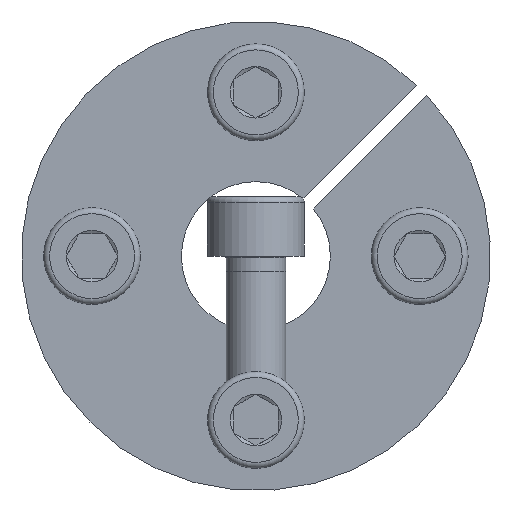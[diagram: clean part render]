
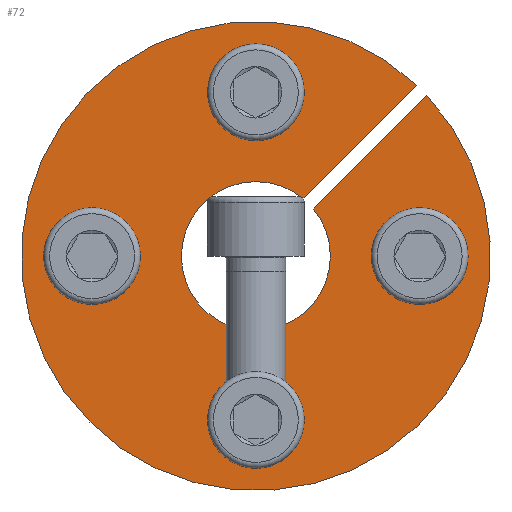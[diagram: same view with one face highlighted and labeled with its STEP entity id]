
A CAD part, front view. The second image highlights one B-rep face of the part: STEP entity #72.
In plain terms, the highlighted planar face has unit normal (0, -1, 0).
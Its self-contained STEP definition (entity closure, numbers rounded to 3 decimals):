
#72 = ADVANCED_FACE( '', ( #149, #150, #151, #152, #153 ), #154, .F. );
#149 = FACE_OUTER_BOUND( '', #255, .T. );
#150 = FACE_BOUND( '', #256, .T. );
#151 = FACE_BOUND( '', #257, .T. );
#152 = FACE_BOUND( '', #258, .T. );
#153 = FACE_BOUND( '', #259, .T. );
#154 = PLANE( '', #260 );
#255 = EDGE_LOOP( '', ( #402, #403, #404, #405 ) );
#256 = EDGE_LOOP( '', ( #406 ) );
#257 = EDGE_LOOP( '', ( #407 ) );
#258 = EDGE_LOOP( '', ( #408 ) );
#259 = EDGE_LOOP( '', ( #409 ) );
#260 = AXIS2_PLACEMENT_3D( '', #410, #411, #412 );
#402 = ORIENTED_EDGE( '', *, *, #617, .T. );
#403 = ORIENTED_EDGE( '', *, *, #618, .T. );
#404 = ORIENTED_EDGE( '', *, *, #619, .T. );
#405 = ORIENTED_EDGE( '', *, *, #620, .F. );
#406 = ORIENTED_EDGE( '', *, *, #621, .F. );
#407 = ORIENTED_EDGE( '', *, *, #622, .F. );
#408 = ORIENTED_EDGE( '', *, *, #623, .F. );
#409 = ORIENTED_EDGE( '', *, *, #624, .F. );
#410 = CARTESIAN_POINT( '', ( 0., 0., 31.5 ) );
#411 = DIRECTION( '', ( 0., 1., 0. ) );
#412 = DIRECTION( '', ( 1., 0., 0. ) );
#617 = EDGE_CURVE( '', #761, #762, #763, .T. );
#618 = EDGE_CURVE( '', #762, #764, #765, .T. );
#619 = EDGE_CURVE( '', #764, #766, #767, .T. );
#620 = EDGE_CURVE( '', #761, #766, #768, .T. );
#621 = EDGE_CURVE( '', #769, #769, #770, .T. );
#622 = EDGE_CURVE( '', #771, #771, #772, .T. );
#623 = EDGE_CURVE( '', #773, #773, #774, .T. );
#624 = EDGE_CURVE( '', #775, #775, #776, .T. );
#761 = VERTEX_POINT( '', #1020 );
#762 = VERTEX_POINT( '', #1021 );
#763 = LINE( '', #1022, #1023 );
#764 = VERTEX_POINT( '', #1024 );
#765 = CIRCLE( '', #1025, 31.5 );
#766 = VERTEX_POINT( '', #1026 );
#767 = LINE( '', #1027, #1028 );
#768 = CIRCLE( '', #1029, 10. );
#769 = VERTEX_POINT( '', #1030 );
#770 = CIRCLE( '', #1031, 4.5 );
#771 = VERTEX_POINT( '', #1032 );
#772 = CIRCLE( '', #1033, 4.5 );
#773 = VERTEX_POINT( '', #1034 );
#774 = CIRCLE( '', #1035, 4.5 );
#775 = VERTEX_POINT( '', #1036 );
#776 = CIRCLE( '', #1037, 4.5 );
#1020 = CARTESIAN_POINT( '', ( 6.329, 0., 7.743 ) );
#1021 = CARTESIAN_POINT( '', ( 21.556, 0., 22.97 ) );
#1022 = CARTESIAN_POINT( '', ( 6.329, 0., 7.743 ) );
#1023 = VECTOR( '', #1164, 1000. );
#1024 = CARTESIAN_POINT( '', ( 22.97, 0., 21.556 ) );
#1025 = AXIS2_PLACEMENT_3D( '', #1165, #1166, #1167 );
#1026 = CARTESIAN_POINT( '', ( 7.743, 0., 6.329 ) );
#1027 = CARTESIAN_POINT( '', ( 22.981, 0., 21.567 ) );
#1028 = VECTOR( '', #1168, 1000. );
#1029 = AXIS2_PLACEMENT_3D( '', #1169, #1170, #1171 );
#1030 = CARTESIAN_POINT( '', ( 4.5, 0., 22. ) );
#1031 = AXIS2_PLACEMENT_3D( '', #1172, #1173, #1174 );
#1032 = CARTESIAN_POINT( '', ( 22., 0., -4.5 ) );
#1033 = AXIS2_PLACEMENT_3D( '', #1175, #1176, #1177 );
#1034 = CARTESIAN_POINT( '', ( -4.5, 0., -22. ) );
#1035 = AXIS2_PLACEMENT_3D( '', #1178, #1179, #1180 );
#1036 = CARTESIAN_POINT( '', ( -22., 0., 4.5 ) );
#1037 = AXIS2_PLACEMENT_3D( '', #1181, #1182, #1183 );
#1164 = DIRECTION( '', ( 0.707, 0., 0.707 ) );
#1165 = CARTESIAN_POINT( '', ( 0., 0., 0. ) );
#1166 = DIRECTION( '', ( 0., -1., 0. ) );
#1167 = DIRECTION( '', ( 0., 0., -1. ) );
#1168 = DIRECTION( '', ( -0.707, 0., -0.707 ) );
#1169 = CARTESIAN_POINT( '', ( 0., 0., 0. ) );
#1170 = DIRECTION( '', ( 0., -1., 0. ) );
#1171 = DIRECTION( '', ( 0., 0., -1. ) );
#1172 = CARTESIAN_POINT( '', ( 0., 0., 22. ) );
#1173 = DIRECTION( '', ( 0., -1., 0. ) );
#1174 = DIRECTION( '', ( 1., 0., 0. ) );
#1175 = CARTESIAN_POINT( '', ( 22., 0., 0. ) );
#1176 = DIRECTION( '', ( 0., -1., 0. ) );
#1177 = DIRECTION( '', ( 0., 0., -1. ) );
#1178 = CARTESIAN_POINT( '', ( 0., 0., -22. ) );
#1179 = DIRECTION( '', ( 0., -1., 0. ) );
#1180 = DIRECTION( '', ( -1., 0., 0. ) );
#1181 = CARTESIAN_POINT( '', ( -22., 0., 0. ) );
#1182 = DIRECTION( '', ( 0., -1., 0. ) );
#1183 = DIRECTION( '', ( 0., 0., 1. ) );
